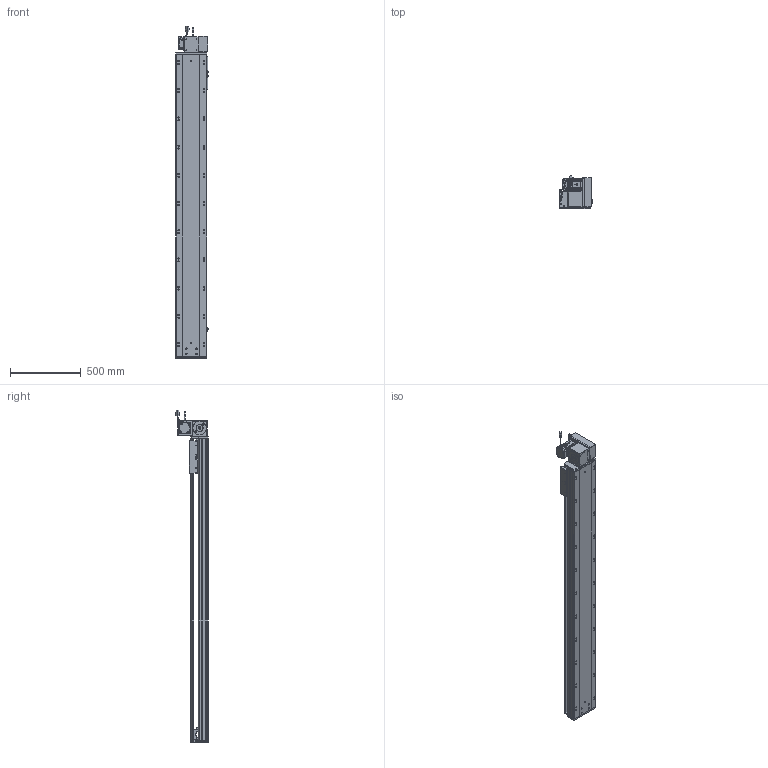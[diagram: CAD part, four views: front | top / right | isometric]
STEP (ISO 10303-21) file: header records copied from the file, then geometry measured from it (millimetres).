
FILE_DESCRIPTION (( 'STEP AP203' ), '1' );
FILE_NAME ('RY220-T-300-UR.SLDASM_1800.step', '2022-07-25T08:44:26', ( '' ), ( '' ), 'SwSTEP 2.0', 'SolidWorks 2016', '' );
FILE_SCHEMA (( 'CONFIG_CONTROL_DESIGN' ));
Length unit declared in the file: millimetre
Products named in the file (14): 滅袉蝶18-15; RY220-T-300-奻裔啣_1800; 怢湛750W_ECMA-CX0807ES; RY220圉猾敕々湍臏賑輸; RY220-同步轮副支撑座6304×2; RY220-T-300-UR.SLDASM_1800; 覜茼ん672; RY220翋肮祭謫裔啣; RY220-俋离672覜茼んえ; RY220-T菁釱-300_1800; RY220翋肮祭謫釱; RY220-T-蛌殏萇儂假蚾啣(750W); RY220-T-湍謫欶(鍼踢); 110A-T-肮祭謫釱傷裔
Assembly tree (18 placements, depth 2):
  RY220-T-300-UR.SLDASM_1800
    RY220-T菁釱-300_1800
    RY220翋肮祭謫釱
    覜茼ん672  x3
    RY220圉猾敕々湍臏賑輸
    RY220-T-300-奻裔啣_1800
    RY220-俋离672覜茼んえ
    滅袉蝶18-15  x3
    RY220翋肮祭謫裔啣  x2
    110A-T-肮祭謫釱傷裔
    怢湛750W_ECMA-CX0807ES
    RY220-T-湍謫欶(鍼踢)
    RY220-T-蛌殏萇儂假蚾啣(750W)
    RY220-同步轮副支撑座6304×2
Bounding box: 238.7 x 231.74 x 2353.27 mm (x, y, z)
Volume: 17439472.4 mm3; surface area: 5267430.4 mm2
Topology: 19 solids, 19 shells, 2784 faces, 7687 edges, 4848 vertices
Faces by surface type: cylinder 1332, plane 1069, cone 301, bspline 56, sphere 16, torus 10
Entity records: 92643 total; most frequent: CARTESIAN_POINT 26279, ORIENTED_EDGE 13754, DIRECTION 13124, EDGE_CURVE 6877, AXIS2_PLACEMENT_3D 4682, VERTEX_POINT 4472, LINE 3760, VECTOR 3760
